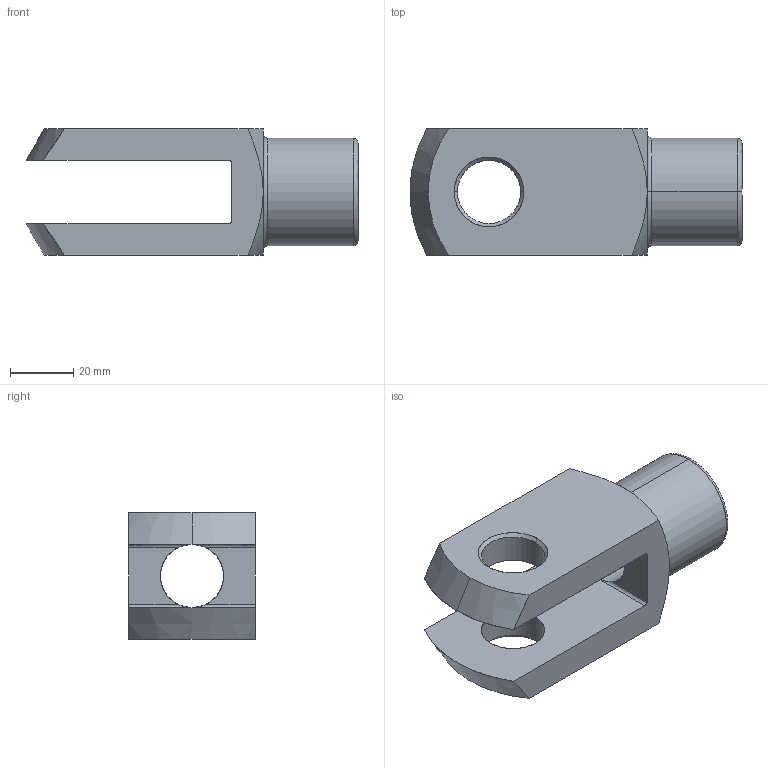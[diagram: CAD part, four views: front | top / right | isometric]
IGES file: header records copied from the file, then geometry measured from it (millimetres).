
Start section: SolidWorks IGES file using analytic representation for surfaces
Global section: file name: C:\Documents and Settings\IANO\My Documents\Wix and Auto CAD Work\CAD Models\Parametric Models\Wix Models\60000\65635_v2\65635_v2_IGES\65635.W0205.igs; native system: SolidWorks 2009; preprocessor: SolidWorks 2009; author: IANO; date: 140117.130816; units: millimetre
Bounding box: 105 x 40 x 40 mm (x, y, z)
Surface area: 21464.8 mm2 (no closed solid volume)
Topology: 0 solids, 0 shells, 39 faces, 716 edges, 716 vertices
Faces by surface type: revolution 25, bspline 14
